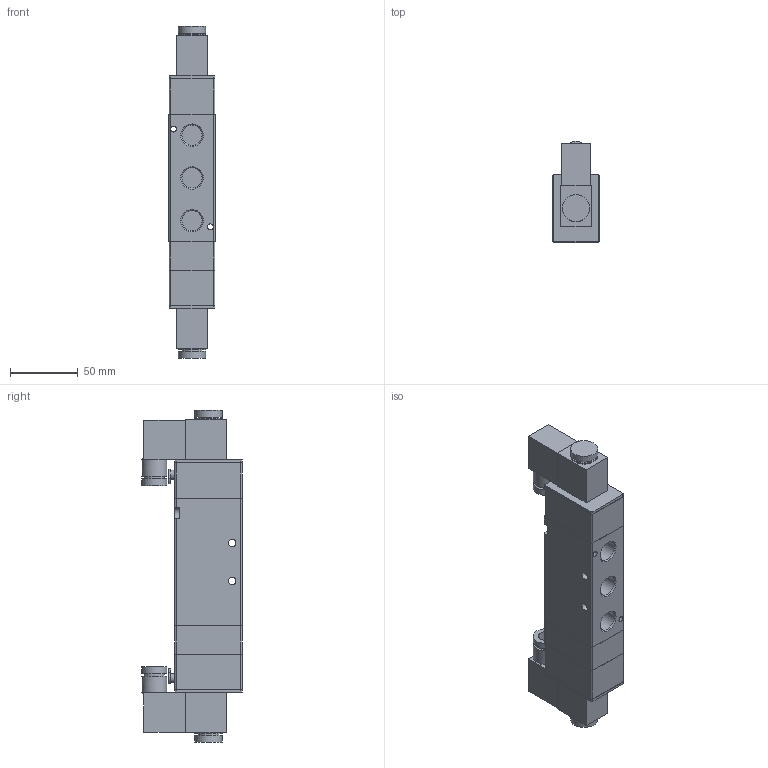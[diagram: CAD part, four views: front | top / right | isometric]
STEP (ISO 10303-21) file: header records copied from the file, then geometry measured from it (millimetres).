
FILE_DESCRIPTION( ( 'STEP AP214' ), '1' );
FILE_NAME( 'C:/Users/emc02044/Desktop/RV五通/RV5342P-10E6.stp', '2026-07-31T11:05:55', ( 'License CC BY-ND 4.0' ), ( 'CADENAS' ), ' ', 'PARTsolutions', ' ' );
FILE_SCHEMA( ( 'AUTOMOTIVE_DESIGN { 1 0 10303 214 1 1 1 1 }' ) );
Length unit declared in the file: millimetre
Products named in the file (1): _RV5342P-10E6
Bounding box: 34 x 74.3 x 244.7 mm (x, y, z)
Volume: 360224.8 mm3; surface area: 56002.9 mm2
Topology: 1 solids, 1 shells, 148 faces, 345 edges, 229 vertices
Faces by surface type: plane 84, cylinder 57, cone 7
Full cylindrical faces by diameter (mm): 4.3 x2, 5.5 x2, 6.5 x2, 10.8 x2, 14.95 x5, 15 x4, 18.6 x4, 20 x4
Entity records: 5278 total; most frequent: DIRECTION 724, CARTESIAN_POINT 719, ORIENTED_EDGE 614, EDGE_CURVE 307, AXIS2_PLACEMENT_3D 270, VERTEX_POINT 221, EDGE_LOOP 216, LINE 184
